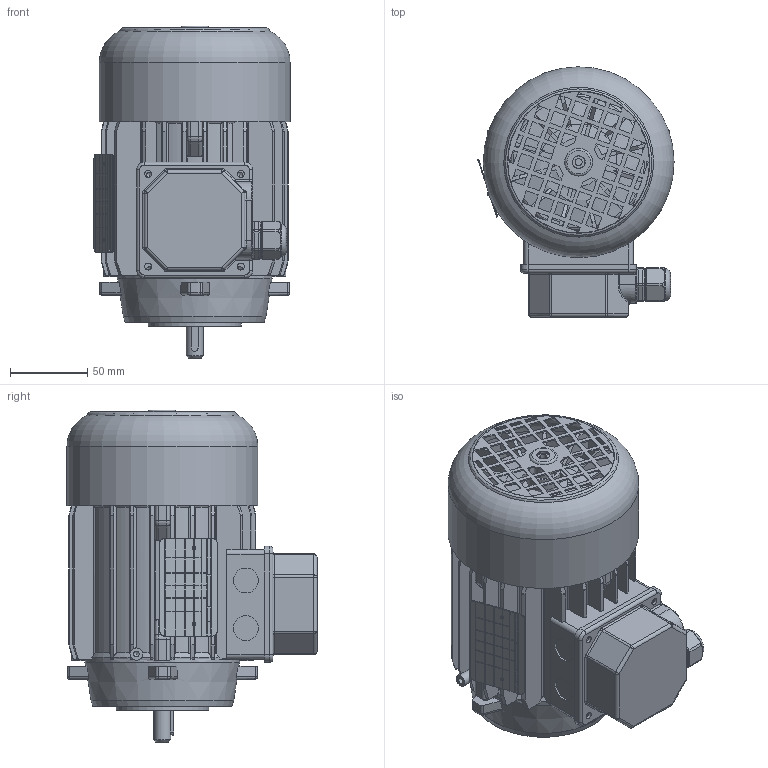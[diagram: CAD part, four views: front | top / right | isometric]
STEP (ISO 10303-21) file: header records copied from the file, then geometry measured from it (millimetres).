
FILE_DESCRIPTION(/* description */ ('Electric motor 2p 230/400V 0,37kW UN'),/* implementation_level */ '2;1');
FILE_NAME(/* name */ 'EM5633020730.stp',/* time_stamp */ '2024-02-07T14:20:40+01:00',/* author */ ('r.biemans'),/* organization */ ('BCK Holland b.v.'),/* preprocessor_version */ 'ST-DEVELOPER v19.2',/* originating_system */ 'Autodesk Inventor 2023',/* authorisation */ '');
FILE_SCHEMA (('AUTOMOTIVE_DESIGN { 1 0 10303 214 3 1 1 }'));
Length unit declared in the file: millimetre
Products named in the file (1): EM5633020730
Bounding box: 126.87 x 161.71 x 214.71 mm (x, y, z)
Volume: 679311.9 mm3; surface area: 336913.1 mm2
Topology: 4 solids, 4 shells, 1625 faces, 4380 edges, 2812 vertices
Faces by surface type: plane 840, cylinder 427, torus 171, cone 119, bspline 44, sphere 24
Full cylindrical faces by diameter (mm): 2 x2, 3.712 x19, 4.134 x4, 4.2 x4, 4.5 x4, 4.522 x2, 5.4 x4, 7.875 x2, 8 x1, 10.998 x1, 11 x1, 11.97 x1, 13 x1, 15.96 x3, 16 x4, 18 x3, 18.514 x1, 19 x1, 22.04 x1, 23.2 x1, 26 x1, 27 x1, 30.532 x1, 35 x1, 36.8 x2, 38.812 x1, 56 x1, 60 x1, 83.25 x1, 87.882 x1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
Entity records: 58329 total; most frequent: CARTESIAN_POINT 16029, ORIENTED_EDGE 8706, DIRECTION 8220, EDGE_CURVE 4353, AXIS2_PLACEMENT_3D 2873, VERTEX_POINT 2814, LINE 2474, VECTOR 2474
